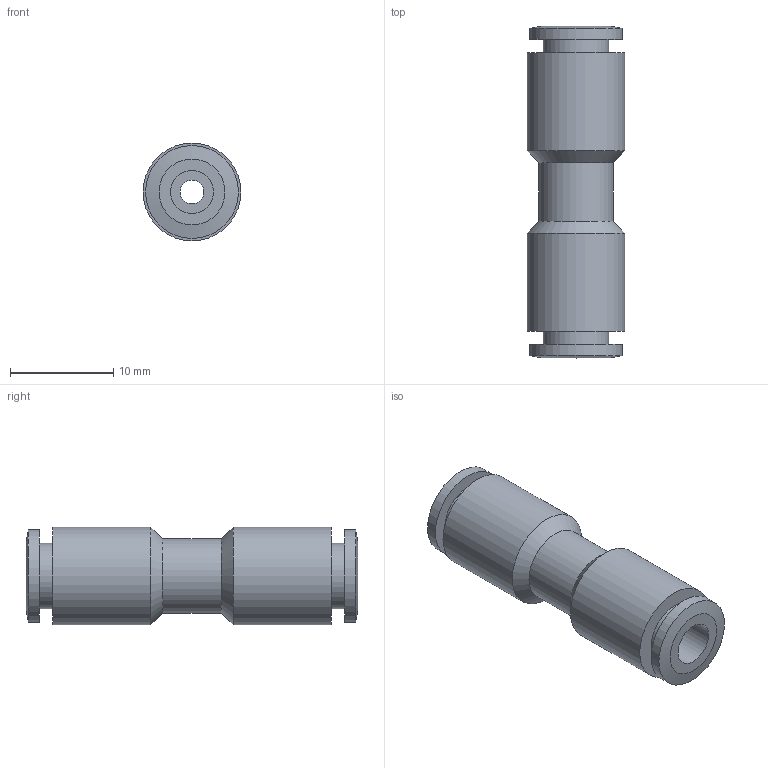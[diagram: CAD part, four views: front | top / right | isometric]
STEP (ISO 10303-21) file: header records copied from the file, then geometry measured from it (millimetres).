
FILE_DESCRIPTION((''),'2;1');
FILE_NAME('C:\Documents and Settings\rivolro1\Documenti\copia di Raccordi\PLASTICA\T03XX00\T030400.stp','2007-10-30T15:28:48',('Rivolro1'),(''),'Autodesk Inventor 2008','Autodesk Inventor 2008','');
FILE_SCHEMA(('AUTOMOTIVE_DESIGN { 1 0 10303 214 1 1 1 1 }'));
Length unit declared in the file: millimetre
Products named in the file (1): T030400
Bounding box: 9.5 x 32.2 x 9.5 mm (x, y, z)
Volume: 1545.5 mm3; surface area: 1551.7 mm2
Topology: 1 solids, 1 shells, 22 faces, 37 edges, 23 vertices
Faces by surface type: cylinder 8, plane 6, bspline 4, cone 4
Full cylindrical faces by diameter (mm): 2.3 x1, 6.4 x2, 7.2 x1, 9 x2, 9.5 x2
Entity records: 523 total; most frequent: CARTESIAN_POINT 107, DIRECTION 82, ORIENTED_EDGE 44, EDGE_LOOP 44, AXIS2_PLACEMENT_3D 41, VERTEX_POINT 22, CIRCLE 22, EDGE_CURVE 22
